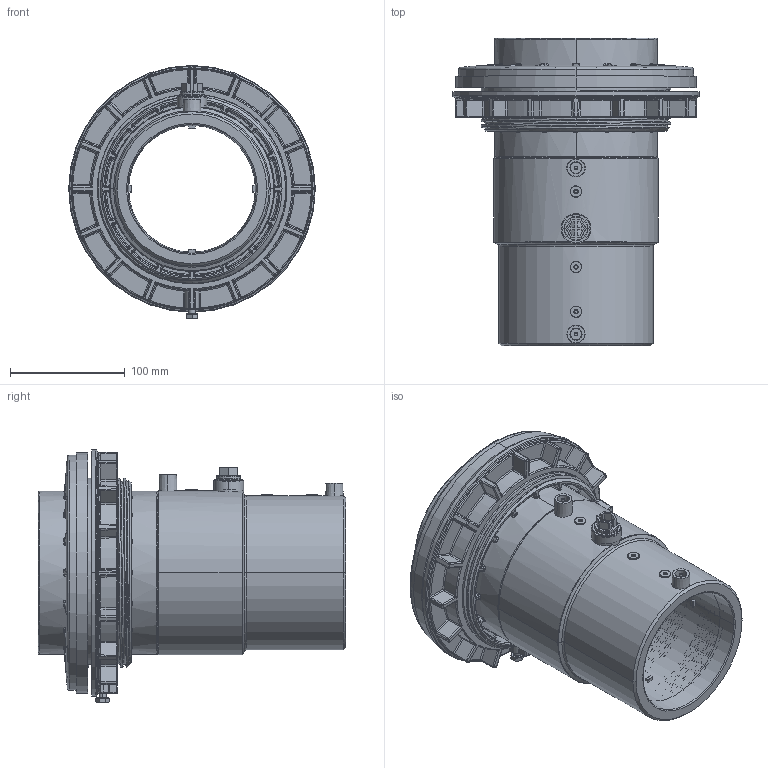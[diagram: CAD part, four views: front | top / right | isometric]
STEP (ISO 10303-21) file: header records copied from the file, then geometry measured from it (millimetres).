
FILE_DESCRIPTION (( 'STEP AP203' ), '1' );
FILE_NAME ('KPTM_125-110SC04.step', '2011-08-08T11:42:57', ( '' ), ( '' ), 'SwSTEP 2.0', 'SolidWorks 2011', '' );
FILE_SCHEMA (( 'CONFIG_CONTROL_DESIGN' ));
Length unit declared in the file: millimetre
Products named in the file (1): KPTM_125-110SC04
Bounding box: 215 x 268 x 220.5 mm (x, y, z)
Volume: 1578905.1 mm3; surface area: 505925.5 mm2
Topology: 2 solids, 9 shells, 2081 faces, 5002 edges, 2714 vertices
Faces by surface type: bspline 599, cylinder 518, plane 361, torus 251, sphere 216, cone 136
Entity records: 85996 total; most frequent: CARTESIAN_POINT 44230, ORIENTED_EDGE 9500, DIRECTION 8070, EDGE_CURVE 4750, AXIS2_PLACEMENT_3D 3493, VERTEX_POINT 2710, EDGE_LOOP 2130, ADVANCED_FACE 2081
